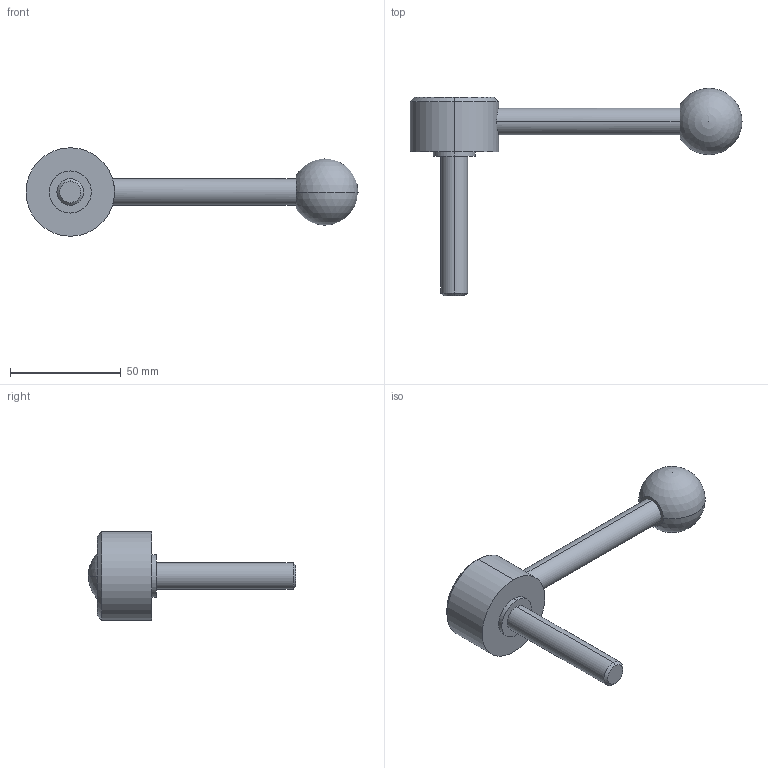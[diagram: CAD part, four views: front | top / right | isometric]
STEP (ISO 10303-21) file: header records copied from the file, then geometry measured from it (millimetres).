
FILE_DESCRIPTION (( 'STEP AP214' ), '1' );
FILE_NAME ('125.5-40-M12-63-D.step', '2020-02-18T11:36:39', ( '' ), ( '' ), 'SwSTEP 2.0', 'SolidWorks 2019', '' );
FILE_SCHEMA (( 'AUTOMOTIVE_DESIGN' ));
Length unit declared in the file: millimetre
Products named in the file (1): 125.5-40-M12-63-D
Bounding box: 150 x 93.7 x 40 mm (x, y, z)
Volume: 61587.6 mm3; surface area: 13615 mm2
Topology: 1 solids, 1 shells, 22 faces, 47 edges, 30 vertices
Faces by surface type: cylinder 10, plane 6, cone 4, sphere 2
Entity records: 748 total; most frequent: CARTESIAN_POINT 176, DIRECTION 112, ORIENTED_EDGE 84, AXIS2_PLACEMENT_3D 49, EDGE_CURVE 42, EDGE_LOOP 27, VERTEX_POINT 27, CIRCLE 26
